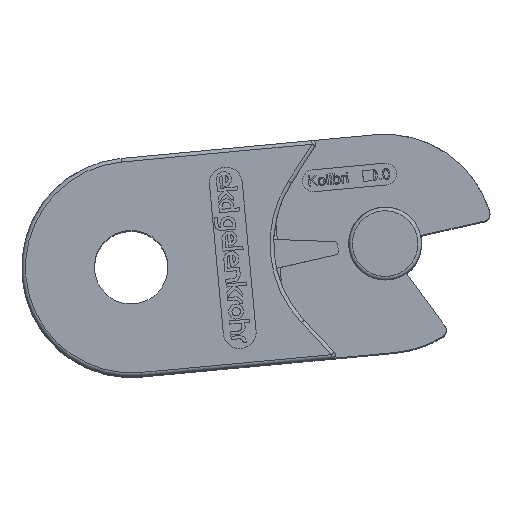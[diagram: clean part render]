
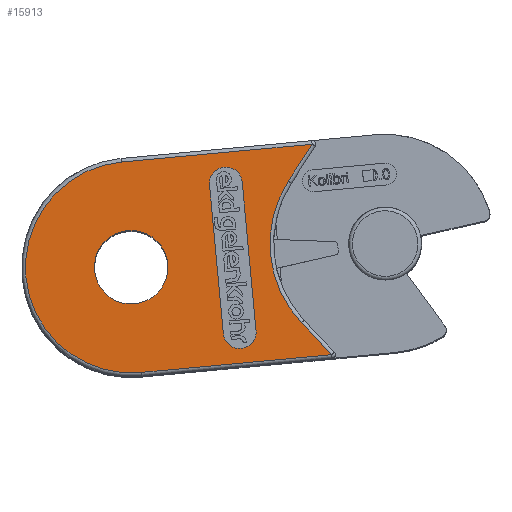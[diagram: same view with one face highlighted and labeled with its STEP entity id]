
A CAD part, top view. The second image highlights one B-rep face of the part: STEP entity #15913.
In plain terms, the highlighted planar face has unit normal (0, 0, 1).
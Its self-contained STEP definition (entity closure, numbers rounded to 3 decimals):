
#15809=CARTESIAN_POINT('',(-67.587,-21.569,13.942));
#15810=DIRECTION('',(0.0,0.0,1.0));
#15811=DIRECTION('',(0.996,0.093,0.0));
#15812=AXIS2_PLACEMENT_3D('',#15809,#15810,#15811);
#15813=PLANE('',#15812);
#15814=CARTESIAN_POINT('',(-57.698,-35.212,13.942));
#15815=VERTEX_POINT('',#15814);
#15816=CARTESIAN_POINT('',(-83.877,-37.649,13.942));
#15817=VERTEX_POINT('',#15816);
#15818=CARTESIAN_POINT('',(-57.698,-35.212,13.942));
#15819=DIRECTION('',(-0.996,-0.093,0.));
#15820=VECTOR('',#15819,26.293);
#15821=LINE('',#15818,#15820);
#15822=EDGE_CURVE('',#15815,#15817,#15821,.T.);
#15823=ORIENTED_EDGE('',*,*,#15822,.F.);
#15824=CARTESIAN_POINT('',(-61.847,-30.829,13.942));
#15825=VERTEX_POINT('',#15824);
#15826=CARTESIAN_POINT('',(-61.847,-30.829,13.942));
#15827=DIRECTION('',(0.687,-0.726,0.));
#15828=VECTOR('',#15827,6.035);
#15829=LINE('',#15826,#15828);
#15830=EDGE_CURVE('',#15825,#15815,#15829,.T.);
#15831=ORIENTED_EDGE('',*,*,#15830,.F.);
#15832=CARTESIAN_POINT('',(-63.654,-11.41,13.942));
#15833=VERTEX_POINT('',#15832);
#15834=CARTESIAN_POINT('',(-50.372,-19.967,13.942));
#15835=DIRECTION('',(0.,0.,1.0));
#15836=DIRECTION('',(-0.996,-0.093,0.));
#15837=AXIS2_PLACEMENT_3D('',#15834,#15835,#15836);
#15838=CIRCLE('',#15837,15.8);
#15839=EDGE_CURVE('',#15833,#15825,#15838,.T.);
#15840=ORIENTED_EDGE('',*,*,#15839,.F.);
#15841=CARTESIAN_POINT('',(-60.386,-6.336,13.942));
#15842=VERTEX_POINT('',#15841);
#15843=CARTESIAN_POINT('',(-60.386,-6.336,13.942));
#15844=DIRECTION('',(-0.542,-0.841,0.));
#15845=VECTOR('',#15844,6.035);
#15846=LINE('',#15843,#15845);
#15847=EDGE_CURVE('',#15842,#15833,#15846,.T.);
#15848=ORIENTED_EDGE('',*,*,#15847,.F.);
#15849=CARTESIAN_POINT('',(-86.566,-8.774,13.942));
#15850=VERTEX_POINT('',#15849);
#15851=CARTESIAN_POINT('',(-86.566,-8.774,13.942));
#15852=DIRECTION('',(0.996,0.093,0.));
#15853=VECTOR('',#15852,26.293);
#15854=LINE('',#15851,#15853);
#15855=EDGE_CURVE('',#15850,#15842,#15854,.T.);
#15856=ORIENTED_EDGE('',*,*,#15855,.F.);
#15857=CARTESIAN_POINT('',(-85.221,-23.211,13.942));
#15858=DIRECTION('',(0.,0.,-1.0));
#15859=DIRECTION('',(-0.996,-0.093,0.));
#15860=AXIS2_PLACEMENT_3D('',#15857,#15858,#15859);
#15861=CIRCLE('',#15860,14.5);
#15862=EDGE_CURVE('',#15817,#15850,#15861,.T.);
#15863=ORIENTED_EDGE('',*,*,#15862,.F.);
#15864=EDGE_LOOP('',(#15823,#15831,#15840,#15848,#15856,#15863));
#15865=FACE_OUTER_BOUND('',#15864,.T.);
#15866=CARTESIAN_POINT('',(-68.089,-31.91,13.942));
#15867=VERTEX_POINT('',#15866);
#15868=CARTESIAN_POINT('',(-72.569,-32.328,13.942));
#15869=VERTEX_POINT('',#15868);
#15870=CARTESIAN_POINT('',(-70.329,-32.119,13.942));
#15871=DIRECTION('',(0.,0.,-1.));
#15872=DIRECTION('',(0.093,-0.996,0.));
#15873=AXIS2_PLACEMENT_3D('',#15870,#15871,#15872);
#15874=CIRCLE('',#15873,2.25);
#15875=EDGE_CURVE('',#15867,#15869,#15874,.T.);
#15876=ORIENTED_EDGE('',*,*,#15875,.T.);
#15877=CARTESIAN_POINT('',(-74.469,-11.916,13.942));
#15878=VERTEX_POINT('',#15877);
#15879=CARTESIAN_POINT('',(-72.569,-32.328,13.942));
#15880=DIRECTION('',(-0.093,0.996,0.));
#15881=VECTOR('',#15880,20.5);
#15882=LINE('',#15879,#15881);
#15883=EDGE_CURVE('',#15869,#15878,#15882,.T.);
#15884=ORIENTED_EDGE('',*,*,#15883,.T.);
#15885=CARTESIAN_POINT('',(-69.989,-11.499,13.942));
#15886=VERTEX_POINT('',#15885);
#15887=CARTESIAN_POINT('',(-72.229,-11.707,13.942));
#15888=DIRECTION('',(0.,0.,-1.));
#15889=DIRECTION('',(0.093,-0.996,0.));
#15890=AXIS2_PLACEMENT_3D('',#15887,#15888,#15889);
#15891=CIRCLE('',#15890,2.25);
#15892=EDGE_CURVE('',#15878,#15886,#15891,.T.);
#15893=ORIENTED_EDGE('',*,*,#15892,.T.);
#15894=CARTESIAN_POINT('',(-69.989,-11.499,13.942));
#15895=DIRECTION('',(0.093,-0.996,0.));
#15896=VECTOR('',#15895,20.5);
#15897=LINE('',#15894,#15896);
#15898=EDGE_CURVE('',#15886,#15867,#15897,.T.);
#15899=ORIENTED_EDGE('',*,*,#15898,.T.);
#15900=EDGE_LOOP('',(#15876,#15884,#15893,#15899));
#15901=FACE_BOUND('',#15900,.T.);
#15902=CARTESIAN_POINT('',(-80.193,-22.743,13.942));
#15903=VERTEX_POINT('',#15902);
#15904=CARTESIAN_POINT('',(-85.221,-23.211,13.942));
#15905=DIRECTION('',(0.,0.,-1.0));
#15906=DIRECTION('',(-0.996,-0.093,0.));
#15907=AXIS2_PLACEMENT_3D('',#15904,#15905,#15906);
#15908=CIRCLE('',#15907,5.05);
#15909=EDGE_CURVE('',#15903,#15903,#15908,.T.);
#15910=ORIENTED_EDGE('',*,*,#15909,.T.);
#15911=EDGE_LOOP('',(#15910));
#15912=FACE_BOUND('',#15911,.T.);
#15913=ADVANCED_FACE('',(#15865,#15901,#15912),#15813,.T.);
